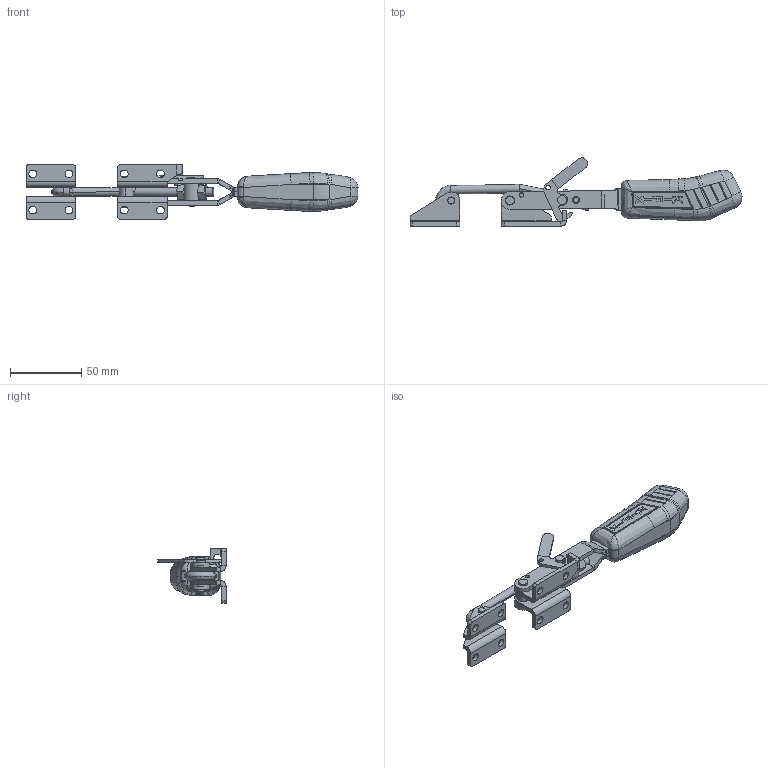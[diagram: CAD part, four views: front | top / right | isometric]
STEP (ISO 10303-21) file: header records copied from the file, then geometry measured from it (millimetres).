
FILE_DESCRIPTION (( 'STEP AP203' ), '1' );
FILE_NAME ('KF-353 DTR.STEP', '2014-08-21T19:30:28', ( 'Ricardo' ), ( '' ), 'SwSTEP 2.0', 'SolidWorks 2013', '' );
FILE_SCHEMA (( 'CONFIG_CONTROL_DESIGN' ));
Length unit declared in the file: millimetre
Products named in the file (14): 05.20017; 03.20015; 11.50001; 02.12086_Direita; 06.50025; 02.12034_Esquerda; 07.60001; 02.12034_Direita; 18.10001; 01.10127; 3670000101; 16.20029; KF-353 DTR; 16.20028
Assembly tree (16 placements, depth 2):
  KF-353 DTR
    02.12086_Direita
    02.12034_Esquerda  x2
    02.12034_Direita
    01.10127  x2
    16.20029
    16.20028
    05.20017
    03.20015
    11.50001  x2
    06.50025
    07.60001
    18.10001
    3670000101
Bounding box: 233.21 x 48.01 x 38.4 mm (x, y, z)
Volume: 75285.3 mm3; surface area: 38298.9 mm2
Topology: 16 solids, 16 shells, 666 faces, 1655 edges, 1040 vertices
Faces by surface type: plane 267, cylinder 211, bspline 131, cone 50, torus 5, sphere 2
Entity records: 22378 total; most frequent: CARTESIAN_POINT 8381, ORIENTED_EDGE 2874, DIRECTION 2153, EDGE_CURVE 1437, VERTEX_POINT 912, AXIS2_PLACEMENT_3D 786, EDGE_LOOP 639, VECTOR 581
